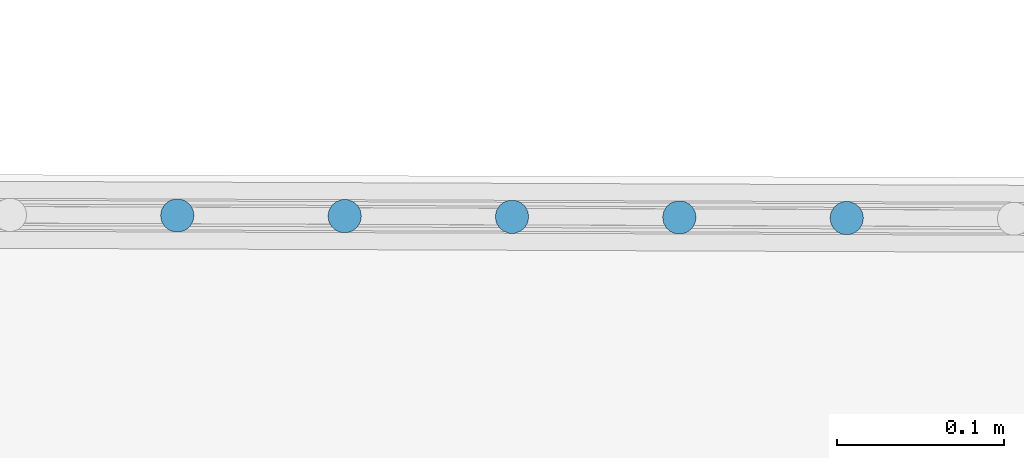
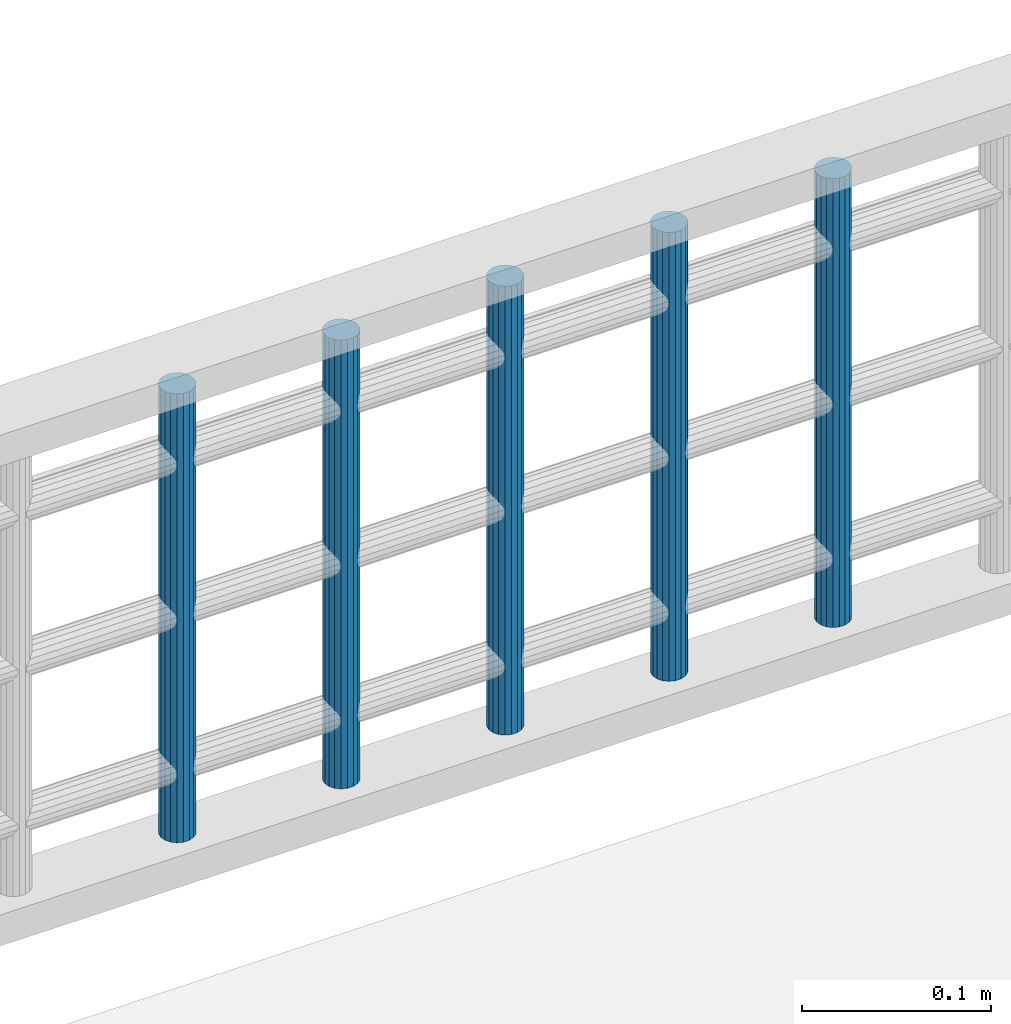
# One storey, part 15 of 39: 5 members, 1 element without a shape of its own.
"""IFC2X3 building model written with IfcOpenShell, lengths in centimetres."""

from ifc_helpers import new_model, entity, si_unit, converted_unit, direction, frame, origin, origin_with_axes, place, context, subcontext, project, spatial, faceted_brep, material, type_object, element, aggregate, save


model = new_model("IFC2X3")

# Units and contexts
model_context = context("Model", 3, precision=0.0001, world=origin(), true_north=direction((0.225632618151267, 0.974212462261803, 0.0)))
body_context = subcontext(model_context, "Body", "Model", "MODEL_VIEW")
ifc_project = project(units=[si_unit("LENGTHUNIT", "METRE", prefix="CENTI"), si_unit("AREAUNIT", "SQUARE_METRE", prefix="CENTI"), si_unit("VOLUMEUNIT", "CUBIC_METRE", prefix="CENTI"), converted_unit("PLANEANGLEUNIT", "DEGREE", entity("IfcRatioMeasure", 0.0174532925), si_unit("PLANEANGLEUNIT", "RADIAN"), dimensions=[0, 0, 0, 0, 0, 0, 0])], contexts=[model_context])

# Site, building, storey
site_placement = place(None, origin_with_axes())
site = spatial("IfcSite", under=ifc_project, at=site_placement, Name="Default Site", CompositionType="ELEMENT")
building_placement = place(site_placement, origin_with_axes())
building = spatial("IfcBuilding", under=site, at=building_placement, Name="Default Building", CompositionType="ELEMENT")
storey_placement = place(building_placement, frame((0.0, 0.0, 1088.91037418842), z_axis=(0.0, 0.0, 1.0), x_axis=(1.0, 0.0, 0.0)))
storey = spatial("IfcBuildingStorey", under=building, at=storey_placement, Name="Mezzanine", CompositionType="ELEMENT", Elevation=1088.91037418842)

# Assembly, members
building_element_proxy_type = type_object("IfcBuildingElementProxyType", Name="Type Object", PredefinedType="NOTDEFINED")
assembly_placement = place(storey_placement, frame((1162.63, -350.05, -63.0000000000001), z_axis=(0.0, 0.0, 1.0), x_axis=(0.999992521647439, -0.00386738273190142, 0.0)))
assembly = element("IfcElementAssembly", 1, at=assembly_placement, inside=storey, type_object=building_element_proxy_type, Name="Panneau 1519648", ObjectType="Precast panel", PredefinedType="USERDEFINED")
ifc_material = material(Name="Blanc trafic")
member_1_placement = place(assembly_placement, frame((14.9396926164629, 0.342020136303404, 31.0000002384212), z_axis=(0.0, 0.0, 0.999999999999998), x_axis=(0.499998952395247, -0.866026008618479, 0.0)))
member_1 = element("IfcMember", 2, at=member_1_placement, material=ifc_material, Name="4294967223", context=body_context, shape_type="Brep", body=[
    faceted_brep([(-2.26901830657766e-12, -2.33424390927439e-12, -2.75335310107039e-12), (-0.347296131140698, -2.48134846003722e-12, -2.75335310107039e-12), (-0.673648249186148, -0.118783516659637, -2.75335310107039e-12), (-0.939692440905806, -0.342021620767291, -2.75335310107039e-12), (-1.11333977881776, -0.642788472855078, -2.75335310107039e-12), (-1.17364672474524, -0.984808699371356, -2.75335310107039e-12), (-1.11333938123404, -1.32682953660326, -2.75335310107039e-12), (-0.939690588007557, -1.6275963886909, -2.75335310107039e-12), (-0.673646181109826, -1.85083437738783, -2.75335310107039e-12), (-0.347293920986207, -1.96961580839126, -2.75335310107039e-12), (2.21015222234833e-06, -1.96961580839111, -2.75335310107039e-12), (0.326354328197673, -1.85083229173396, -2.75335310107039e-12), (0.592398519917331, -1.62759418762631, -2.75335310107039e-12), (0.766045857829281, -1.32682733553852, -2.75335310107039e-12), (0.826352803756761, -0.98480710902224, -2.75335310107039e-12), (0.76604546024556, -0.642786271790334, -2.75335310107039e-12), (0.592396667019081, -0.342019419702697, -2.75335310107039e-12), (0.32635226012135, -0.118781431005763, -2.75335310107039e-12), (0.32635226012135, -0.118781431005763, -29.0000002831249), (0.592396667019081, -0.342019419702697, -29.0000002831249), (0.76604546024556, -0.642786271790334, -29.0000002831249), (0.826352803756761, -0.98480710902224, -29.0000002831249), (0.766045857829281, -1.32682733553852, -29.0000002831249), (0.592398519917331, -1.62759418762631, -29.0000002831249), (0.326354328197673, -1.85083229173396, -29.0000002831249), (2.21015222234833e-06, -1.96961580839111, -29.0000002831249), (-0.347293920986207, -1.96961580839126, -29.0000002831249), (-0.673646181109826, -1.85083437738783, -29.0000002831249), (-0.939690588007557, -1.6275963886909, -29.0000002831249), (-1.11333938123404, -1.32682953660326, -29.0000002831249), (-1.17364672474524, -0.984808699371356, -29.0000002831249), (-1.11333977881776, -0.642788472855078, -29.0000002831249), (-0.939692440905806, -0.342021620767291, -29.0000002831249), (-0.673648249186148, -0.118783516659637, -29.0000002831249), (-0.347296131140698, -2.48134846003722e-12, -29.0000002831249), (-2.26901830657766e-12, -2.33424390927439e-12, -29.0000002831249), (0.592397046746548, -0.342018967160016, -2.75335310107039e-12), (0.592397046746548, -0.342018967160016, -29.0000002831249), (0.766045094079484, -0.642786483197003, -2.75335310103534e-12), (0.766045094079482, -0.642786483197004, -29.0000002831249), (0.592396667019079, -0.342019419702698, -29.0000002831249), (0.826353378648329, -0.984807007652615, -2.75335310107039e-12), (0.826353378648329, -0.984807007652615, -29.0000002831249), (0.766045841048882, -1.3268273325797, -2.75335310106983e-12), (0.766045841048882, -1.3268273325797, -29.0000002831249), (0.82635280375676, -0.98480710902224, -29.0000002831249), (0.326354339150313, -1.85083230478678, -2.75335310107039e-12), (0.326354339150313, -1.85083230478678, -29.0000002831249), (2.01049378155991e-06, -1.96961525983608, -2.7533531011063e-12), (2.01049378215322e-06, -1.96961525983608, -29.0000002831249), (-0.347293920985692, -1.96961623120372, -2.75335310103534e-12), (-0.347293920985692, -1.96961623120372, -29.0000002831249), (2.21015222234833e-06, -1.96961580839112, -29.0000002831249), (-0.673645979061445, -1.85083382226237, -2.75335310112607e-12), (-0.673645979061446, -1.85083382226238, -29.0000002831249), (-0.347293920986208, -1.96961580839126, -29.0000002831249), (-0.939690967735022, -1.62759684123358, -2.75335310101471e-12), (-0.939690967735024, -1.62759684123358, -29.0000002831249), (-0.673646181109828, -1.85083437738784, -29.0000002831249), (-1.11333901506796, -1.32682932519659, -2.75335310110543e-12), (-1.11333901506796, -1.32682932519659, -29.0000002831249), (-0.939690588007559, -1.6275963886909, -29.0000002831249), (-1.17364729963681, -0.984808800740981, -2.75335310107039e-12), (-1.17364729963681, -0.984808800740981, -29.0000002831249), (-1.11333976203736, -0.642788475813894, -2.75335310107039e-12), (-1.11333976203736, -0.642788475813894, -29.0000002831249), (-0.939692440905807, -0.342021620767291, -2.75335310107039e-12), (-0.939692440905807, -0.342021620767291, -29.0000002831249), (-0.673648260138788, -0.118783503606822, -2.75335310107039e-12), (-0.673648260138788, -0.118783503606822, -29.0000002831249), (-0.347295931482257, -5.48557515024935e-07, -2.75335310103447e-12), (-0.347295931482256, -5.48557516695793e-07, -29.0000002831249), (-0.673648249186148, -0.118783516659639, -29.0000002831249), (-2.78376759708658e-12, 4.22810124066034e-07, -2.75335310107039e-12), (-2.78376759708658e-12, 4.22810124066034e-07, -29.0000002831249), (0.32635205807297, -0.118781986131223, -2.75335310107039e-12), (0.32635205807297, -0.118781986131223, -29.0000002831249)], [[[0, 1, 2, 3, 4, 5, 6, 7, 8, 9, 10, 11, 12, 13, 14, 15, 16, 17]], [[18, 19, 20, 21, 22, 23, 24, 25, 26, 27, 28, 29, 30, 31, 32, 33, 34, 35]], [[17, 36, 37, 18]], [[16, 38, 39, 40]], [[15, 41, 42, 20]], [[14, 43, 44, 45]], [[13, 12, 23, 22]], [[12, 46, 47, 23]], [[11, 48, 49, 24]], [[10, 50, 51, 52]], [[9, 53, 54, 55]], [[8, 56, 57, 58]], [[7, 59, 60, 61]], [[6, 62, 63, 29]], [[5, 64, 65, 30]], [[4, 66, 67, 31]], [[3, 68, 69, 32]], [[2, 70, 71, 72]], [[1, 73, 74, 34]], [[0, 75, 76, 35]]]),
])
member_2_placement = place(assembly_placement, frame((24.9396920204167, 0.342020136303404, 31.0000002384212), z_axis=(0.0, 0.0, 0.999999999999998), x_axis=(0.499998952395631, -0.866026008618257, 0.0)))
member_2 = element("IfcMember", 3, at=member_2_placement, material=ifc_material, Name="4294967222", context=body_context, shape_type="Brep", body=[
    faceted_brep([(-2.21767049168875e-12, -2.45081732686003e-12, -2.93653990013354e-12), (-0.347296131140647, -2.44249065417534e-12, -2.93653990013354e-12), (-0.67364750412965, -0.118782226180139, -2.93653990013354e-12), (-0.939691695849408, -0.342020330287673, -2.93653990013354e-12), (-1.11333977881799, -0.6427884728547, -2.93653990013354e-12), (-1.17364672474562, -0.984808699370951, -2.93653990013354e-12), (-1.11333863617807, -1.32682824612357, -2.93653990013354e-12), (-0.939690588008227, -1.6275963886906, -2.93653990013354e-12), (-0.673645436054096, -1.85083308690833, -2.93653990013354e-12), (-0.34729392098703, -1.96961580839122, -2.93653990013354e-12), (2.95520789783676e-06, -1.96961451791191, -2.93653990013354e-12), (0.326354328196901, -1.85083229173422, -2.93653990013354e-12), (0.592398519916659, -1.62759418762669, -2.93653990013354e-12), (0.76604660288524, -1.32682604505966, -2.93653990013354e-12), (0.826353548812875, -0.984805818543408, -2.93653990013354e-12), (0.766045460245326, -0.642786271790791, -2.93653990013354e-12), (0.59239666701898, -0.342019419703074, -2.93653990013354e-12), (0.326352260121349, -0.118781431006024, -2.93653990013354e-12), (0.326352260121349, -0.118781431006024, -29.0000002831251), (0.59239666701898, -0.342019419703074, -29.0000002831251), (0.766045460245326, -0.642786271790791, -29.0000002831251), (0.826353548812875, -0.984805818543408, -29.0000002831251), (0.76604660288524, -1.32682604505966, -29.0000002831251), (0.592398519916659, -1.62759418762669, -29.0000002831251), (0.326354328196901, -1.85083229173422, -29.0000002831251), (2.95520789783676e-06, -1.96961451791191, -29.0000002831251), (-0.34729392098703, -1.96961580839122, -29.0000002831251), (-0.673645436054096, -1.85083308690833, -29.0000002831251), (-0.939690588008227, -1.6275963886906, -29.0000002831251), (-1.11333863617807, -1.32682824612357, -29.0000002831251), (-1.17364672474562, -0.984808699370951, -29.0000002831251), (-1.11333977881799, -0.6427884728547, -29.0000002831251), (-0.939691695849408, -0.342020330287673, -29.0000002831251), (-0.67364750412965, -0.118782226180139, -29.0000002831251), (-0.347296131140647, -2.44249065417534e-12, -29.0000002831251), (-2.21767049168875e-12, -2.45081732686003e-12, -29.0000002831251), (0.592397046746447, -0.342018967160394, -2.93653990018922e-12), (0.592397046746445, -0.342018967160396, -29.0000002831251), (0.326352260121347, -0.118781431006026, -29.0000002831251), (0.76604509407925, -0.64278648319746, -2.93653990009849e-12), (0.766045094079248, -0.642786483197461, -29.0000002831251), (0.592396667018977, -0.342019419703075, -29.0000002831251), (0.826353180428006, -0.984805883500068, -2.93653990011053e-12), (0.826353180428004, -0.984805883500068, -29.0000002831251), (0.766045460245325, -0.642786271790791, -29.0000002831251), (0.766046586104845, -1.32682604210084, -2.93653990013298e-12), (0.766046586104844, -1.32682604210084, -29.0000002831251), (0.826353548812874, -0.984805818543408, -29.0000002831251), (0.592398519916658, -1.62759418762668, -2.93653990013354e-12), (0.592398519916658, -1.62759418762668, -29.0000002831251), (0.326354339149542, -1.85083230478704, -2.93653990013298e-12), (0.326354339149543, -1.85083230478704, -29.0000002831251), (0.59239851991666, -1.62759418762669, -29.0000002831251), (3.0831470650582e-06, -1.96961486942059, -2.93653990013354e-12), (3.0831470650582e-06, -1.96961486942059, -29.0000002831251), (-0.347293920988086, -1.96961494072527, -2.93653990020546e-12), (-0.347293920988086, -1.96961494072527, -29.0000002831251), (2.95520789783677e-06, -1.96961451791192, -29.0000002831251), (-0.673645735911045, -1.85083391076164, -2.9365399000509e-12), (-0.673645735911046, -1.85083391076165, -29.0000002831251), (-0.347293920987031, -1.96961580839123, -29.0000002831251), (-0.939690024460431, -1.62759571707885, -2.93653990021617e-12), (-0.939690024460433, -1.62759571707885, -29.0000002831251), (-0.673645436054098, -1.85083308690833, -29.0000002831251), (-1.11333938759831, -1.32682867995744, -2.93653990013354e-12), (-1.11333938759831, -1.32682867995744, -29.0000002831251), (-1.17364635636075, -0.984808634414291, -2.93653990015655e-12), (-1.17364635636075, -0.984808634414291, -29.0000002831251), (-1.11333863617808, -1.32682824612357, -29.0000002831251), (-1.11333976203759, -0.642788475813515, -2.9365399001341e-12), (-1.11333976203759, -0.642788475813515, -29.0000002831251), (-0.673647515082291, -0.118782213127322, -2.9365399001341e-12), (-0.67364751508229, -0.118782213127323, -29.0000002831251), (-0.939691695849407, -0.342020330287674, -29.0000002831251), (-0.347296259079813, 3.51506230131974e-07, -2.93653990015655e-12), (-0.347296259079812, 3.51506228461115e-07, -29.0000002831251), (-0.673647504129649, -0.118782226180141, -29.0000002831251), (-2.73241959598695e-12, 4.22810008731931e-07, -2.93653990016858e-12), (-2.73241959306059e-12, 4.22810006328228e-07, -29.0000002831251), (-0.347296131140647, -2.4448943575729e-12, -29.0000002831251), (0.326352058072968, -0.118781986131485, -2.93653990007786e-12), (0.326352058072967, -0.118781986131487, -29.0000002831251), (-2.21860536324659e-12, -2.45338587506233e-12, -29.0000002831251)], [[[0, 1, 2, 3, 4, 5, 6, 7, 8, 9, 10, 11, 12, 13, 14, 15, 16, 17]], [[18, 19, 20, 21, 22, 23, 24, 25, 26, 27, 28, 29, 30, 31, 32, 33, 34, 35]], [[17, 36, 37, 38]], [[16, 39, 40, 41]], [[15, 42, 43, 44]], [[14, 45, 46, 47]], [[13, 48, 49, 22]], [[12, 50, 51, 52]], [[11, 53, 54, 24]], [[10, 55, 56, 57]], [[9, 58, 59, 60]], [[8, 61, 62, 63]], [[7, 64, 65, 28]], [[6, 66, 67, 68]], [[5, 69, 70, 30]], [[4, 3, 32, 31]], [[3, 71, 72, 73]], [[2, 74, 75, 76]], [[1, 77, 78, 79]], [[0, 80, 81, 82]]]),
])
member_3_placement = place(assembly_placement, frame((34.9396914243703, 0.342020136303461, 31.0000002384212), z_axis=(0.0, 0.0, 0.999999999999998), x_axis=(0.499995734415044, -0.866027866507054, 0.0)))
member_3 = element("IfcMember", 4, at=member_3_placement, material=ifc_material, Name="4294967221", context=body_context, shape_type="Brep", body=[
    faceted_brep([(-2.21211937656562e-12, -2.27040608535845e-12, -2.57016630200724e-12), (-0.347295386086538, -2.22044604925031e-12, -2.57016630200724e-12), (-0.673647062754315, -0.118784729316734, -2.57016630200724e-12), (-0.939689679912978, -0.342022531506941, -2.57016630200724e-12), (-1.1133373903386, -0.642792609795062, -2.57016630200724e-12), (-1.17364232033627, -0.984811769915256, -2.57016630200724e-12), (-1.11333370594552, -1.32683238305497, -2.57016630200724e-12), (-0.939684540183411, -1.62759988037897, -2.57016630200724e-12), (-0.673637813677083, -1.85083429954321, -2.57016630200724e-12), (-0.347286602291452, -1.96961709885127, -2.57016630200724e-12), (1.0273896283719e-05, -1.96961451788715, -2.57016630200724e-12), (0.326361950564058, -1.85082978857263, -2.57016630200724e-12), (0.592404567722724, -1.62759198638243, -2.57016630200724e-12), (0.766052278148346, -1.32682190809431, -2.57016630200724e-12), (0.826357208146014, -0.984802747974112, -2.57016630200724e-12), (0.766048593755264, -0.642782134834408, -2.57016630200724e-12), (0.592397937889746, -0.342017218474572, -2.57016630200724e-12), (0.326352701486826, -0.118780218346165, -2.57016630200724e-12), (0.326352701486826, -0.118780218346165, -29.0000002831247), (0.592397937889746, -0.342017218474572, -29.0000002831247), (0.766048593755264, -0.642782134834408, -29.0000002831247), (0.826357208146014, -0.984802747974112, -29.0000002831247), (0.766052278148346, -1.32682190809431, -29.0000002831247), (0.592404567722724, -1.62759198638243, -29.0000002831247), (0.326361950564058, -1.85082978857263, -29.0000002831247), (1.0273896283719e-05, -1.96961451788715, -29.0000002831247), (-0.347286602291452, -1.96961709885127, -29.0000002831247), (-0.673637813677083, -1.85083429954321, -29.0000002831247), (-0.939684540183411, -1.62759988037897, -29.0000002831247), (-1.11333370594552, -1.32683238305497, -29.0000002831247), (-1.17364232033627, -0.984811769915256, -29.0000002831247), (-1.1133373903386, -0.642792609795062, -29.0000002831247), (-0.939689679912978, -0.342022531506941, -29.0000002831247), (-0.673647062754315, -0.118784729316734, -29.0000002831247), (-0.347295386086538, -2.22044604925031e-12, -29.0000002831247), (-2.21211937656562e-12, -2.27040608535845e-12, -29.0000002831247), (0.592398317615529, -0.342016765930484, -2.57016630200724e-12), (0.592398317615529, -0.342016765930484, -29.0000002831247), (0.766047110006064, -0.642782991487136, -2.57016630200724e-12), (0.766047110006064, -0.642782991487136, -29.0000002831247), (0.826357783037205, -0.984802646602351, -2.57016630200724e-12), (0.826357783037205, -0.984802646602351, -29.0000002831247), (0.766051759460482, -1.32682181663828, -2.57016630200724e-12), (0.766051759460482, -1.32682181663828, -29.0000002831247), (0.592404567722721, -1.62759198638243, -2.57016630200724e-12), (0.592404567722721, -1.62759198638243, -29.0000002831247), (0.326362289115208, -1.85083019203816, -2.57016630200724e-12), (0.326362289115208, -1.85083019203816, -29.0000002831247), (1.00742358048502e-05, -1.96961396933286, -2.57016630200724e-12), (1.00742358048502e-05, -1.96961396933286, -29.0000002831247), (-0.347286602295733, -1.96961623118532, -2.57016630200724e-12), (-0.347286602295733, -1.96961623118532, -29.0000002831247), (-0.673638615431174, -1.85083650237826, -2.57016630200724e-12), (-0.673638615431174, -1.85083650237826, -29.0000002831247), (-0.939683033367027, -1.62759808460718, -2.57016630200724e-12), (-0.939683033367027, -1.62759808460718, -29.0000002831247), (-1.11333445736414, -1.32683281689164, -2.57016630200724e-12), (-1.11333445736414, -1.32683281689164, -29.0000002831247), (-1.17364289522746, -0.984811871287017, -2.57016630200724e-12), (-1.17364289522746, -0.984811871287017, -29.0000002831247), (-1.11333687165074, -0.642792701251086, -2.57016630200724e-12), (-1.11333687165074, -0.642792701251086, -29.0000002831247), (-0.939689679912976, -0.342022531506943, -2.57016630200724e-12), (-0.939689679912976, -0.342022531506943, -29.0000002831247), (-0.673647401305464, -0.118784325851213, -2.57016630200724e-12), (-0.673647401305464, -0.118784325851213, -29.0000002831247), (-0.347295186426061, -5.48556504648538e-07, -2.57016630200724e-12), (-0.347295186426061, -5.48556504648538e-07, -29.0000002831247), (-1.06641910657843e-11, 1.71328859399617e-06, -2.57016630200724e-12), (-1.06641910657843e-11, 1.71328859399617e-06, -29.0000002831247), (0.326352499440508, -0.118780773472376, -2.57016630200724e-12), (0.326352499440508, -0.118780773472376, -29.0000002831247)], [[[0, 1, 2, 3, 4, 5, 6, 7, 8, 9, 10, 11, 12, 13, 14, 15, 16, 17]], [[18, 19, 20, 21, 22, 23, 24, 25, 26, 27, 28, 29, 30, 31, 32, 33, 34, 35]], [[17, 36, 37, 18]], [[16, 38, 39, 19]], [[15, 40, 41, 20]], [[14, 42, 43, 21]], [[13, 44, 45, 22]], [[12, 46, 47, 23]], [[11, 48, 49, 24]], [[10, 50, 51, 25]], [[9, 52, 53, 26]], [[8, 54, 55, 27]], [[7, 56, 57, 28]], [[6, 58, 59, 29]], [[5, 60, 61, 30]], [[4, 62, 63, 31]], [[3, 64, 65, 32]], [[2, 66, 67, 33]], [[1, 68, 69, 34]], [[0, 70, 71, 35]]]),
])
member_4_placement = place(assembly_placement, frame((44.9396938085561, 0.342020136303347, 31.0000002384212), z_axis=(0.0, 0.0, 0.999999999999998), x_axis=(0.500002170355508, -0.866024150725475, 0.0)))
member_4 = element("IfcMember", 5, at=member_4_placement, material=ifc_material, Name="4294967220", context=body_context, shape_type="Brep", body=[
    faceted_brep([(-2.65343302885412e-12, -2.43693953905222e-12, -2.93098878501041e-12), (-0.347296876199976, -2.48134846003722e-12, -2.93098878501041e-12), (-0.673649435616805, -0.118782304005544, -2.93098878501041e-12), (-0.939693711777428, -0.34201812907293, -2.93098878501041e-12), (-1.11334365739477, -0.642786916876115, -2.93098878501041e-12), (-1.17365112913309, -0.98480562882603, -2.93098878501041e-12), (-1.11334505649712, -1.32682669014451, -2.93098878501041e-12), (-0.939696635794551, -1.62759289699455, -2.93098878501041e-12), (-0.673653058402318, -1.85083187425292, -2.93098878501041e-12), (-0.347301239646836, -1.96961451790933, -2.93098878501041e-12), (-5.85357209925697e-06, -1.96961709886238, -2.93098878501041e-12), (0.326346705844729, -1.85083479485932, -2.93098878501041e-12), (0.592390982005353, -1.62759896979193, -2.93098878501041e-12), (0.766040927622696, -1.32683018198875, -2.93098878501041e-12), (0.826348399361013, -0.984811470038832, -2.93098878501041e-12), (0.766042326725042, -0.642790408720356, -2.93098878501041e-12), (0.592395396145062, -0.342021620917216, -2.93098878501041e-12), (0.326350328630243, -0.118785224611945, -2.93098878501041e-12), (0.326350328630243, -0.118785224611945, -29.0000002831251), (0.592395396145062, -0.342021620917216, -29.0000002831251), (0.766042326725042, -0.642790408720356, -29.0000002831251), (0.826348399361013, -0.984811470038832, -29.0000002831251), (0.766040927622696, -1.32683018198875, -29.0000002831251), (0.592390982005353, -1.62759896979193, -29.0000002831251), (0.326346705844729, -1.85083479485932, -29.0000002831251), (-5.85357209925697e-06, -1.96961709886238, -29.0000002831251), (-0.347301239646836, -1.96961451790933, -29.0000002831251), (-0.673653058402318, -1.85083187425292, -29.0000002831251), (-0.939696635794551, -1.62759289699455, -29.0000002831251), (-1.11334505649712, -1.32682669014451, -29.0000002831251), (-1.17365112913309, -0.98480562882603, -29.0000002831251), (-1.11334365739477, -0.642786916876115, -29.0000002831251), (-0.939693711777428, -0.34201812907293, -29.0000002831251), (-0.673649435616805, -0.118782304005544, -29.0000002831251), (-0.347296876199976, -2.48134846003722e-12, -29.0000002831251), (-2.65343302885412e-12, -2.43693953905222e-12, -29.0000002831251), (0.592393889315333, -0.342023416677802, -2.93098878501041e-12), (0.592393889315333, -0.342023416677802, -29.0000002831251), (0.766043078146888, -0.64278997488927, -2.93098878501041e-12), (0.766043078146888, -0.64278997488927, -29.0000002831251), (0.826348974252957, -0.984811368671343, -2.93098878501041e-12), (0.826348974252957, -0.984811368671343, -29.0000002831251), (0.766040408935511, -1.32683009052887, -2.93098878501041e-12), (0.766040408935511, -1.32683009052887, -29.0000002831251), (0.59239098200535, -1.62759896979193, -2.93098878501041e-12), (0.59239098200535, -1.62759896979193, -29.0000002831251), (0.326347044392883, -1.85083519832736, -2.93098878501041e-12), (0.326347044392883, -1.85083519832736, -29.0000002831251), (-6.05322850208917e-06, -1.96961655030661, -2.93098878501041e-12), (-6.05322850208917e-06, -1.96961655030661, -29.0000002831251), (-0.347301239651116, -1.96961623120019, -2.93098878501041e-12), (-0.347301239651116, -1.96961623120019, -29.0000002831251), (-0.673652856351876, -1.85083131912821, -2.93098878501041e-12), (-0.673652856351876, -1.85083131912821, -29.0000002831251), (-0.939697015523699, -1.62759334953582, -2.93098878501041e-12), (-0.939697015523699, -1.62759334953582, -29.0000002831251), (-1.11334357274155, -1.3268258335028, -2.93098878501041e-12), (-1.11334357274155, -1.3268258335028, -29.0000002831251), (-1.17365170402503, -0.984805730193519, -2.93098878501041e-12), (-1.17365170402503, -0.984805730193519, -29.0000002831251), (-1.11334313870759, -0.642787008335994, -2.93098878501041e-12), (-1.11334313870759, -0.642787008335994, -29.0000002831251), (-0.939693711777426, -0.342018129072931, -2.93098878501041e-12), (-0.939693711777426, -0.342018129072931, -29.0000002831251), (-0.673649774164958, -0.118781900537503, -2.93098878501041e-12), (-0.673649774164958, -0.118781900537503, -29.0000002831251), (-0.347296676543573, -5.48558256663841e-07, -2.93098878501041e-12), (-0.347296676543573, -5.48558256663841e-07, -29.0000002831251), (-4.82115818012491e-12, -8.67668393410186e-07, -2.93098878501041e-12), (-4.82115818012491e-12, -8.67668393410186e-07, -29.0000002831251), (0.326351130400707, -0.118783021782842, -2.93098878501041e-12), (0.326351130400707, -0.118783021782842, -29.0000002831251)], [[[0, 1, 2, 3, 4, 5, 6, 7, 8, 9, 10, 11, 12, 13, 14, 15, 16, 17]], [[18, 19, 20, 21, 22, 23, 24, 25, 26, 27, 28, 29, 30, 31, 32, 33, 34, 35]], [[17, 36, 37, 18]], [[16, 38, 39, 19]], [[15, 40, 41, 20]], [[14, 42, 43, 21]], [[13, 44, 45, 22]], [[12, 46, 47, 23]], [[11, 48, 49, 24]], [[10, 50, 51, 25]], [[9, 52, 53, 26]], [[8, 54, 55, 27]], [[7, 56, 57, 28]], [[6, 58, 59, 29]], [[5, 60, 61, 30]], [[4, 62, 63, 31]], [[3, 64, 65, 32]], [[2, 66, 67, 33]], [[1, 68, 69, 34]], [[0, 70, 71, 35]]]),
])
member_5_placement = place(assembly_placement, frame((54.9396932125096, 0.342020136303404, 31.0000002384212), z_axis=(0.0, 0.0, 0.999999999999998), x_axis=(0.499995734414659, -0.866027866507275, 0.0)))
member_5 = element("IfcMember", 6, at=member_5_placement, material=ifc_material, Name="4294967219", context=body_context, shape_type="Brep", body=[
    faceted_brep([(-2.50355292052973e-12, -2.29816166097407e-12, -2.76445533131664e-12), (-0.347295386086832, -2.40363284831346e-12, -2.76445533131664e-12), (-0.673647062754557, -0.118784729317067, -2.76445533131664e-12), (-0.939691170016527, -0.342025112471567, -2.76445533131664e-12), (-1.11333888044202, -0.64279519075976, -2.76445533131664e-12), (-1.17364232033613, -0.984811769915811, -2.76445533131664e-12), (-1.11333370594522, -1.32683238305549, -2.76445533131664e-12), (-0.939686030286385, -1.62760246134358, -2.76445533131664e-12), (-0.673640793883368, -1.85083946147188, -2.76445533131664e-12), (-0.347288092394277, -1.96961967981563, -2.76445533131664e-12), (1.0273896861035e-05, -1.96961451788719, -2.76445533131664e-12), (0.326361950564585, -1.85082978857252, -2.76445533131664e-12), (0.592403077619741, -1.62759456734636, -2.76445533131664e-12), (0.766050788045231, -1.32682448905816, -2.76445533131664e-12), (0.826357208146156, -0.984802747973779, -2.76445533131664e-12), (0.766048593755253, -0.642782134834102, -2.76445533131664e-12), (0.592397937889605, -0.342017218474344, -2.76445533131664e-12), (0.326352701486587, -0.118780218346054, -2.76445533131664e-12), (0.326352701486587, -0.118780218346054, -29.0000002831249), (0.592397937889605, -0.342017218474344, -29.0000002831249), (0.766048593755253, -0.642782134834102, -29.0000002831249), (0.826357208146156, -0.984802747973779, -29.0000002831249), (0.766050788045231, -1.32682448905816, -29.0000002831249), (0.592403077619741, -1.62759456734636, -29.0000002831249), (0.326361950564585, -1.85082978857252, -29.0000002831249), (1.0273896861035e-05, -1.96961451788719, -29.0000002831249), (-0.347288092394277, -1.96961967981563, -29.0000002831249), (-0.673640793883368, -1.85083946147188, -29.0000002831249), (-0.939686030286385, -1.62760246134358, -29.0000002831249), (-1.11333370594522, -1.32683238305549, -29.0000002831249), (-1.17364232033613, -0.984811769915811, -29.0000002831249), (-1.11333888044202, -0.64279519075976, -29.0000002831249), (-0.939691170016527, -0.342025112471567, -29.0000002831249), (-0.673647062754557, -0.118784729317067, -29.0000002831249), (-0.347295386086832, -2.40363284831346e-12, -29.0000002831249), (-2.50355292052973e-12, -2.29816166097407e-12, -29.0000002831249), (0.592398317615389, -0.342016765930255, -2.76445533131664e-12), (0.592398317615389, -0.342016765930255, -29.0000002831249), (0.766047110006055, -0.64278299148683, -2.76445533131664e-12), (0.766047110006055, -0.64278299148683, -29.0000002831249), (0.826357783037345, -0.984802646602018, -2.76445533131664e-12), (0.826357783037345, -0.984802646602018, -29.0000002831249), (0.766051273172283, -1.32682457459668, -2.76445533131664e-12), (0.766051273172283, -1.32682457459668, -29.0000002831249), (0.32636294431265, -1.85083097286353, -2.76445533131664e-12), (0.32636294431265, -1.85083097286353, -29.0000002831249), (1.00742363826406e-05, -1.9696139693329, -2.76445533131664e-12), (1.00742363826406e-05, -1.9696139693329, -29.0000002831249), (-0.34728809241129, -1.96961623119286, -2.76445533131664e-12), (-0.34728809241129, -1.96961623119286, -29.0000002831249), (-0.67364059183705, -1.85083890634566, -2.76445533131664e-12), (-0.67364059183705, -1.85083890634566, -29.0000002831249), (-0.939686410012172, -1.62760291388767, -2.76445533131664e-12), (-0.939686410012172, -1.62760291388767, -29.0000002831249), (-1.11333669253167, -1.32683410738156, -2.76445533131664e-12), (-1.11333669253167, -1.32683410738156, -29.0000002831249), (-1.17364289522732, -0.984811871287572, -2.76445533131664e-12), (-1.17364289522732, -0.984811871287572, -29.0000002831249), (-1.11333735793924, -0.642795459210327, -2.76445533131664e-12), (-1.11333735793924, -0.642795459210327, -29.0000002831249), (-0.673646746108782, -0.118785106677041, -2.76445533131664e-12), (-0.673646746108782, -0.118785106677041, -29.0000002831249), (-0.347295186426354, -5.48556692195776e-07, -2.76445533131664e-12), (-0.347295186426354, -5.48556692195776e-07, -29.0000002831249), (-1.0955625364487e-11, 1.71328856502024e-06, -2.76445533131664e-12), (-1.0955625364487e-11, 1.71328856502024e-06, -29.0000002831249), (0.326352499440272, -0.11878077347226, -2.76445533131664e-12), (0.326352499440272, -0.11878077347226, -29.0000002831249)], [[[0, 1, 2, 3, 4, 5, 6, 7, 8, 9, 10, 11, 12, 13, 14, 15, 16, 17]], [[18, 19, 20, 21, 22, 23, 24, 25, 26, 27, 28, 29, 30, 31, 32, 33, 34, 35]], [[17, 36, 37, 18]], [[16, 38, 39, 19]], [[15, 40, 41, 20]], [[14, 42, 43, 21]], [[13, 12, 23, 22]], [[12, 44, 45, 23]], [[11, 46, 47, 24]], [[10, 48, 49, 25]], [[9, 50, 51, 26]], [[8, 52, 53, 27]], [[7, 54, 55, 28]], [[6, 56, 57, 29]], [[5, 58, 59, 30]], [[4, 3, 32, 31]], [[3, 60, 61, 32]], [[2, 62, 63, 33]], [[1, 64, 65, 34]], [[0, 66, 67, 35]]]),
])
aggregate(assembly, [member_1, member_2, member_3, member_4, member_5])

save(model, "model.ifc")
